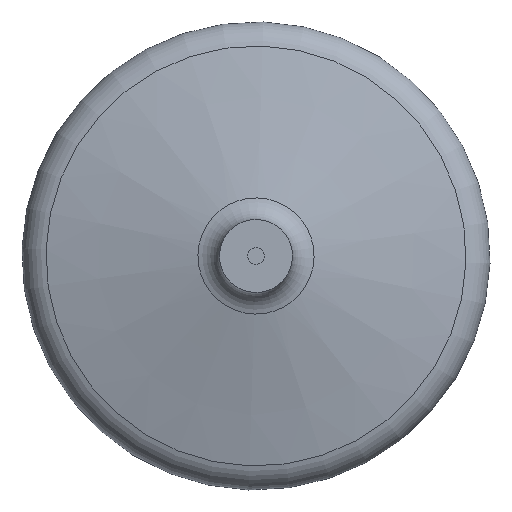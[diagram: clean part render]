
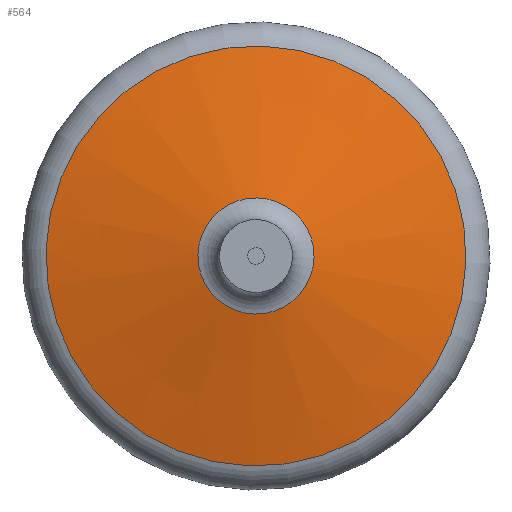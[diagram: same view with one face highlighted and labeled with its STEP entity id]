
A CAD part, front view. The second image highlights one B-rep face of the part: STEP entity #564.
In plain terms, the highlighted conical face has half-angle 76.848 degrees and reference radius 67.5 mm.
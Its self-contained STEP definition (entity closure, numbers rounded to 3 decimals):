
#45=LINE('',#1031,#59);
#59=VECTOR('',#805,67.5);
#72=CONICAL_SURFACE('',#667,67.5,1.341);
#83=FACE_OUTER_BOUND('',#113,.T.);
#113=EDGE_LOOP('',(#396,#397,#398,#399,#400,#401,#402));
#154=CIRCLE('',#664,27.928);
#155=CIRCLE('',#665,27.928);
#157=CIRCLE('',#668,100.913);
#158=CIRCLE('',#669,100.913);
#159=CIRCLE('',#670,100.913);
#228=VERTEX_POINT('',#1019);
#229=VERTEX_POINT('',#1021);
#230=VERTEX_POINT('',#1026);
#231=VERTEX_POINT('',#1027);
#232=VERTEX_POINT('',#1029);
#296=EDGE_CURVE('',#228,#229,#154,.T.);
#297=EDGE_CURVE('',#229,#228,#155,.T.);
#299=EDGE_CURVE('',#230,#231,#157,.T.);
#300=EDGE_CURVE('',#232,#230,#158,.T.);
#301=EDGE_CURVE('',#232,#229,#45,.T.);
#302=EDGE_CURVE('',#231,#232,#159,.T.);
#396=ORIENTED_EDGE('',*,*,#299,.F.);
#397=ORIENTED_EDGE('',*,*,#300,.F.);
#398=ORIENTED_EDGE('',*,*,#301,.T.);
#399=ORIENTED_EDGE('',*,*,#296,.F.);
#400=ORIENTED_EDGE('',*,*,#297,.F.);
#401=ORIENTED_EDGE('',*,*,#301,.F.);
#402=ORIENTED_EDGE('',*,*,#302,.F.);
#564=ADVANCED_FACE('',(#83),#72,.T.);
#664=AXIS2_PLACEMENT_3D('',#1022,#793,#794);
#665=AXIS2_PLACEMENT_3D('',#1023,#795,#796);
#667=AXIS2_PLACEMENT_3D('',#1025,#799,#800);
#668=AXIS2_PLACEMENT_3D('',#1028,#801,#802);
#669=AXIS2_PLACEMENT_3D('',#1030,#803,#804);
#670=AXIS2_PLACEMENT_3D('',#1032,#806,#807);
#793=DIRECTION('center_axis',(0.,1.,0.));
#794=DIRECTION('ref_axis',(1.,0.,0.));
#795=DIRECTION('center_axis',(0.,1.,0.));
#796=DIRECTION('ref_axis',(1.,0.,0.));
#799=DIRECTION('center_axis',(0.,-1.,0.));
#800=DIRECTION('ref_axis',(1.,0.,0.));
#801=DIRECTION('center_axis',(0.,-1.,0.));
#802=DIRECTION('ref_axis',(1.,0.,0.));
#803=DIRECTION('center_axis',(0.,-1.,0.));
#804=DIRECTION('ref_axis',(1.,0.,0.));
#805=DIRECTION('',(0.974,0.228,0.));
#806=DIRECTION('center_axis',(0.,-1.,0.));
#807=DIRECTION('ref_axis',(1.,0.,0.));
#1019=CARTESIAN_POINT('',(0.,116.472,-27.928));
#1021=CARTESIAN_POINT('',(-27.928,116.472,0.));
#1022=CARTESIAN_POINT('Origin',(0.,116.472,0.));
#1023=CARTESIAN_POINT('Origin',(0.,116.472,0.));
#1025=CARTESIAN_POINT('Origin',(0.,107.225,0.));
#1026=CARTESIAN_POINT('',(100.913,99.418,0.));
#1027=CARTESIAN_POINT('',(0.,99.418,100.913));
#1028=CARTESIAN_POINT('Origin',(0.,99.418,0.));
#1029=CARTESIAN_POINT('',(-100.913,99.418,0.));
#1030=CARTESIAN_POINT('Origin',(0.,99.418,0.));
#1031=CARTESIAN_POINT('',(-67.5,107.225,0.));
#1032=CARTESIAN_POINT('Origin',(0.,99.418,0.));
